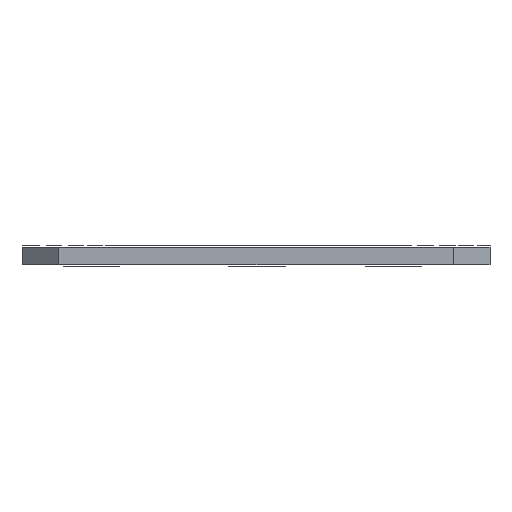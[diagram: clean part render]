
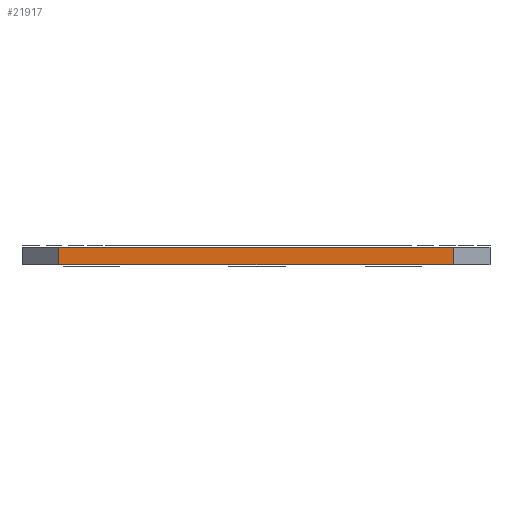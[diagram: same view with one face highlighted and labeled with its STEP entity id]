
A CAD part, front view. The second image highlights one B-rep face of the part: STEP entity #21917.
In plain terms, the highlighted planar face has unit normal (0, -1, 0).
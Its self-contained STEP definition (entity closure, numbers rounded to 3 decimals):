
#14954 = PLANE('',#14955);
#14955 = AXIS2_PLACEMENT_3D('',#14956,#14957,#14958);
#14956 = CARTESIAN_POINT('',(0.,0.,0.71));
#14957 = DIRECTION('',(0.,0.,1.));
#14958 = DIRECTION('',(1.,0.,-0.));
#14982 = PLANE('',#14983);
#14983 = AXIS2_PLACEMENT_3D('',#14984,#14985,#14986);
#14984 = CARTESIAN_POINT('',(9.6,-14.1,0.));
#14985 = DIRECTION('',(0.707,-0.707,0.));
#14986 = DIRECTION('',(-0.707,-0.707,0.));
#15008 = PLANE('',#15009);
#15009 = AXIS2_PLACEMENT_3D('',#15010,#15011,#15012);
#15010 = CARTESIAN_POINT('',(0.,0.,0.));
#15011 = DIRECTION('',(0.,0.,1.));
#15012 = DIRECTION('',(1.,0.,-0.));
#15101 = VERTEX_POINT('',#15102);
#15102 = CARTESIAN_POINT('',(8.1,-15.6,0.71));
#15123 = EDGE_CURVE('',#15124,#15101,#15126,.T.);
#15124 = VERTEX_POINT('',#15125);
#15125 = CARTESIAN_POINT('',(8.1,-15.6,0.));
#15126 = SURFACE_CURVE('',#15127,(#15131,#15138),.PCURVE_S1.);
#15127 = LINE('',#15128,#15129);
#15128 = CARTESIAN_POINT('',(8.1,-15.6,0.));
#15129 = VECTOR('',#15130,1.);
#15130 = DIRECTION('',(0.,0.,1.));
#15131 = PCURVE('',#14982,#15132);
#15132 = DEFINITIONAL_REPRESENTATION('',(#15133),#15137);
#15133 = LINE('',#15134,#15135);
#15134 = CARTESIAN_POINT('',(2.121,0.));
#15135 = VECTOR('',#15136,1.);
#15136 = DIRECTION('',(0.,-1.));
#15137 = ( GEOMETRIC_REPRESENTATION_CONTEXT(2) 
PARAMETRIC_REPRESENTATION_CONTEXT() REPRESENTATION_CONTEXT('2D SPACE',''
  ) );
#15138 = PCURVE('',#15139,#15144);
#15139 = PLANE('',#15140);
#15140 = AXIS2_PLACEMENT_3D('',#15141,#15142,#15143);
#15141 = CARTESIAN_POINT('',(8.1,-15.6,0.));
#15142 = DIRECTION('',(0.,-1.,0.));
#15143 = DIRECTION('',(-1.,0.,0.));
#15144 = DEFINITIONAL_REPRESENTATION('',(#15145),#15149);
#15145 = LINE('',#15146,#15147);
#15146 = CARTESIAN_POINT('',(0.,-0.));
#15147 = VECTOR('',#15148,1.);
#15148 = DIRECTION('',(0.,-1.));
#15149 = ( GEOMETRIC_REPRESENTATION_CONTEXT(2) 
PARAMETRIC_REPRESENTATION_CONTEXT() REPRESENTATION_CONTEXT('2D SPACE',''
  ) );
#15257 = VERTEX_POINT('',#15258);
#15258 = CARTESIAN_POINT('',(-8.1,-15.6,0.));
#15272 = PLANE('',#15273);
#15273 = AXIS2_PLACEMENT_3D('',#15274,#15275,#15276);
#15274 = CARTESIAN_POINT('',(-8.1,-15.6,0.));
#15275 = DIRECTION('',(-0.707,-0.707,0.));
#15276 = DIRECTION('',(-0.707,0.707,0.));
#15284 = EDGE_CURVE('',#15124,#15257,#15285,.T.);
#15285 = SURFACE_CURVE('',#15286,(#15290,#15297),.PCURVE_S1.);
#15286 = LINE('',#15287,#15288);
#15287 = CARTESIAN_POINT('',(8.1,-15.6,0.));
#15288 = VECTOR('',#15289,1.);
#15289 = DIRECTION('',(-1.,0.,0.));
#15290 = PCURVE('',#15008,#15291);
#15291 = DEFINITIONAL_REPRESENTATION('',(#15292),#15296);
#15292 = LINE('',#15293,#15294);
#15293 = CARTESIAN_POINT('',(8.1,-15.6));
#15294 = VECTOR('',#15295,1.);
#15295 = DIRECTION('',(-1.,0.));
#15296 = ( GEOMETRIC_REPRESENTATION_CONTEXT(2) 
PARAMETRIC_REPRESENTATION_CONTEXT() REPRESENTATION_CONTEXT('2D SPACE',''
  ) );
#15297 = PCURVE('',#15139,#15298);
#15298 = DEFINITIONAL_REPRESENTATION('',(#15299),#15303);
#15299 = LINE('',#15300,#15301);
#15300 = CARTESIAN_POINT('',(0.,-0.));
#15301 = VECTOR('',#15302,1.);
#15302 = DIRECTION('',(1.,0.));
#15303 = ( GEOMETRIC_REPRESENTATION_CONTEXT(2) 
PARAMETRIC_REPRESENTATION_CONTEXT() REPRESENTATION_CONTEXT('2D SPACE',''
  ) );
#18919 = VERTEX_POINT('',#18920);
#18920 = CARTESIAN_POINT('',(-8.1,-15.6,0.71));
#18941 = EDGE_CURVE('',#15101,#18919,#18942,.T.);
#18942 = SURFACE_CURVE('',#18943,(#18947,#18954),.PCURVE_S1.);
#18943 = LINE('',#18944,#18945);
#18944 = CARTESIAN_POINT('',(8.1,-15.6,0.71));
#18945 = VECTOR('',#18946,1.);
#18946 = DIRECTION('',(-1.,0.,0.));
#18947 = PCURVE('',#14954,#18948);
#18948 = DEFINITIONAL_REPRESENTATION('',(#18949),#18953);
#18949 = LINE('',#18950,#18951);
#18950 = CARTESIAN_POINT('',(8.1,-15.6));
#18951 = VECTOR('',#18952,1.);
#18952 = DIRECTION('',(-1.,0.));
#18953 = ( GEOMETRIC_REPRESENTATION_CONTEXT(2) 
PARAMETRIC_REPRESENTATION_CONTEXT() REPRESENTATION_CONTEXT('2D SPACE',''
  ) );
#18954 = PCURVE('',#15139,#18955);
#18955 = DEFINITIONAL_REPRESENTATION('',(#18956),#18960);
#18956 = LINE('',#18957,#18958);
#18957 = CARTESIAN_POINT('',(0.,-0.71));
#18958 = VECTOR('',#18959,1.);
#18959 = DIRECTION('',(1.,0.));
#18960 = ( GEOMETRIC_REPRESENTATION_CONTEXT(2) 
PARAMETRIC_REPRESENTATION_CONTEXT() REPRESENTATION_CONTEXT('2D SPACE',''
  ) );
#21917 = ADVANCED_FACE('',(#21918),#15139,.T.);
#21918 = FACE_BOUND('',#21919,.T.);
#21919 = EDGE_LOOP('',(#21920,#21921,#21922,#21943));
#21920 = ORIENTED_EDGE('',*,*,#15123,.T.);
#21921 = ORIENTED_EDGE('',*,*,#18941,.T.);
#21922 = ORIENTED_EDGE('',*,*,#21923,.F.);
#21923 = EDGE_CURVE('',#15257,#18919,#21924,.T.);
#21924 = SURFACE_CURVE('',#21925,(#21929,#21936),.PCURVE_S1.);
#21925 = LINE('',#21926,#21927);
#21926 = CARTESIAN_POINT('',(-8.1,-15.6,0.));
#21927 = VECTOR('',#21928,1.);
#21928 = DIRECTION('',(0.,0.,1.));
#21929 = PCURVE('',#15139,#21930);
#21930 = DEFINITIONAL_REPRESENTATION('',(#21931),#21935);
#21931 = LINE('',#21932,#21933);
#21932 = CARTESIAN_POINT('',(16.2,0.));
#21933 = VECTOR('',#21934,1.);
#21934 = DIRECTION('',(0.,-1.));
#21935 = ( GEOMETRIC_REPRESENTATION_CONTEXT(2) 
PARAMETRIC_REPRESENTATION_CONTEXT() REPRESENTATION_CONTEXT('2D SPACE',''
  ) );
#21936 = PCURVE('',#15272,#21937);
#21937 = DEFINITIONAL_REPRESENTATION('',(#21938),#21942);
#21938 = LINE('',#21939,#21940);
#21939 = CARTESIAN_POINT('',(0.,0.));
#21940 = VECTOR('',#21941,1.);
#21941 = DIRECTION('',(0.,-1.));
#21942 = ( GEOMETRIC_REPRESENTATION_CONTEXT(2) 
PARAMETRIC_REPRESENTATION_CONTEXT() REPRESENTATION_CONTEXT('2D SPACE',''
  ) );
#21943 = ORIENTED_EDGE('',*,*,#15284,.F.);
